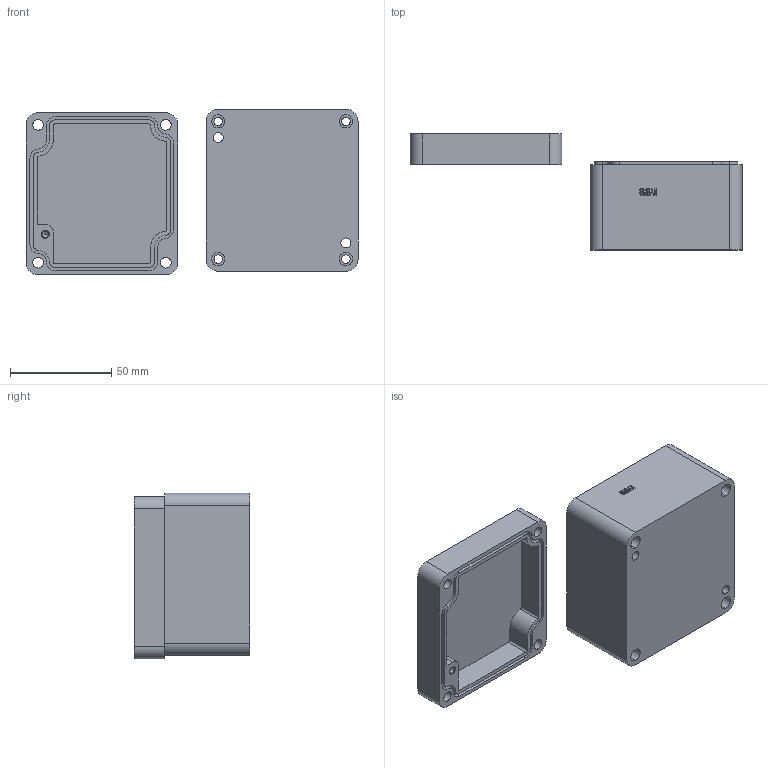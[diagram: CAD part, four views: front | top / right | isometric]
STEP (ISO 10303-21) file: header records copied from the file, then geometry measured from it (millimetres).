
FILE_DESCRIPTION (( 'STEP AP203' ), '1' );
FILE_NAME ('ZX-AL-070805_装配体.STEP', '2022-01-24T07:45:21', ( '微软用户' ), ( '微软中国' ), 'SwSTEP 2.0', 'SolidWorks 2020', '' );
FILE_SCHEMA (( 'CONFIG_CONTROL_DESIGN' ));
Length unit declared in the file: millimetre
Products named in the file (3): ZX-AL-070805_狟; ZX-AL-070805_奻; ZX-AL-070805_蚾饜极
Assembly tree (2 placements, depth 2):
  ZX-AL-070805_蚾饜极
    ZX-AL-070805_狟
    ZX-AL-070805_奻
Bounding box: 163.86 x 57.2 x 81.76 mm (x, y, z)
Volume: 113807.2 mm3; surface area: 62695.9 mm2
Topology: 2 solids, 2 shells, 576 faces, 1571 edges, 1023 vertices
Faces by surface type: plane 282, cylinder 127, bspline 123, cone 44
Entity records: 23964 total; most frequent: CARTESIAN_POINT 9736, ORIENTED_EDGE 3106, DIRECTION 2503, EDGE_CURVE 1553, LINE 1027, VECTOR 1027, VERTEX_POINT 1023, AXIS2_PLACEMENT_3D 738
